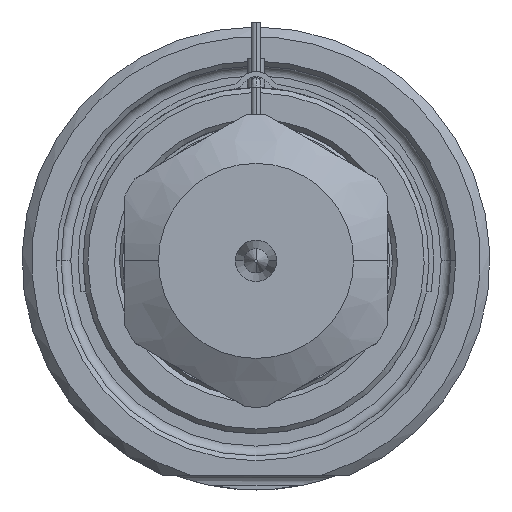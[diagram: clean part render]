
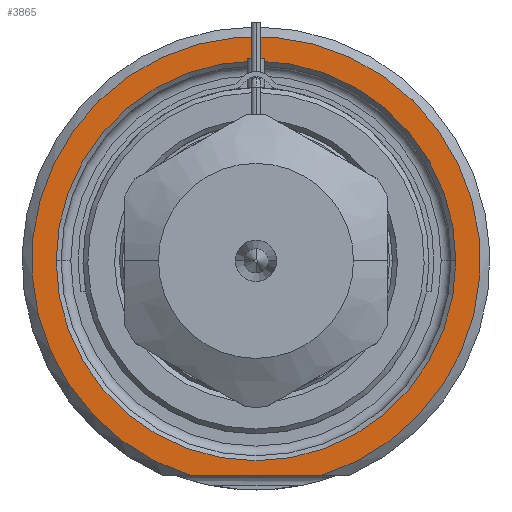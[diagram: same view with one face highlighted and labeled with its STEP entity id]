
A CAD part, front view. The second image highlights one B-rep face of the part: STEP entity #3865.
In plain terms, the highlighted planar face has unit normal (0, -1, 0).
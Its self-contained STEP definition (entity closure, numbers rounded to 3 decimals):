
#1=DIRECTION('',(1.,0.,0.));
#2=VECTOR('',#1,13.416);
#3=CARTESIAN_POINT('',(-6.708,0.,-22.));
#4=LINE('',#3,#2);
#5=CARTESIAN_POINT('',(0.,0.,0.));
#6=DIRECTION('',(0.,1.,0.));
#7=DIRECTION('',(-1.,0.,0.));
#8=AXIS2_PLACEMENT_3D('',#5,#6,#7);
#10=CARTESIAN_POINT('',(0.,0.,0.));
#11=DIRECTION('',(0.,1.,0.));
#12=DIRECTION('',(1.,0.,0.));
#13=AXIS2_PLACEMENT_3D('',#10,#11,#12);
#121=CARTESIAN_POINT('',(0.,0.,0.));
#122=DIRECTION('',(0.,-1.,0.));
#123=DIRECTION('',(0.292,0.,-0.957));
#124=AXIS2_PLACEMENT_3D('',#121,#122,#123);
#3233=CARTESIAN_POINT('',(-20.5,0.,0.));
#3234=CARTESIAN_POINT('',(20.5,0.,0.));
#3235=VERTEX_POINT('',#3233);
#3236=VERTEX_POINT('',#3234);
#3273=CARTESIAN_POINT('',(-6.708,0.,-22.));
#3274=CARTESIAN_POINT('',(6.708,0.,-22.));
#3275=VERTEX_POINT('',#3273);
#3276=VERTEX_POINT('',#3274);
#3848=CARTESIAN_POINT('',(0.,0.,0.));
#3849=DIRECTION('',(0.,-1.,0.));
#3850=DIRECTION('',(1.,0.,0.));
#3851=AXIS2_PLACEMENT_3D('',#3848,#3849,#3850);
#3852=PLANE('',#3851);
#3854=ORIENTED_EDGE('',*,*,#3853,.F.);
#3856=ORIENTED_EDGE('',*,*,#3855,.F.);
#3857=EDGE_LOOP('',(#3854,#3856));
#3858=FACE_OUTER_BOUND('',#3857,.F.);
#3860=ORIENTED_EDGE('',*,*,#3859,.F.);
#3862=ORIENTED_EDGE('',*,*,#3861,.F.);
#3863=EDGE_LOOP('',(#3860,#3862));
#3864=FACE_BOUND('',#3863,.F.);
#3865=ADVANCED_FACE('',(#3858,#3864),#3852,.T.);
#9=CIRCLE('',#8,20.5);
#14=CIRCLE('',#13,20.5);
#125=CIRCLE('',#124,23.);
#3853=EDGE_CURVE('',#3275,#3276,#4,.T.);
#3855=EDGE_CURVE('',#3276,#3275,#125,.T.);
#3859=EDGE_CURVE('',#3235,#3236,#9,.T.);
#3861=EDGE_CURVE('',#3236,#3235,#14,.T.);
